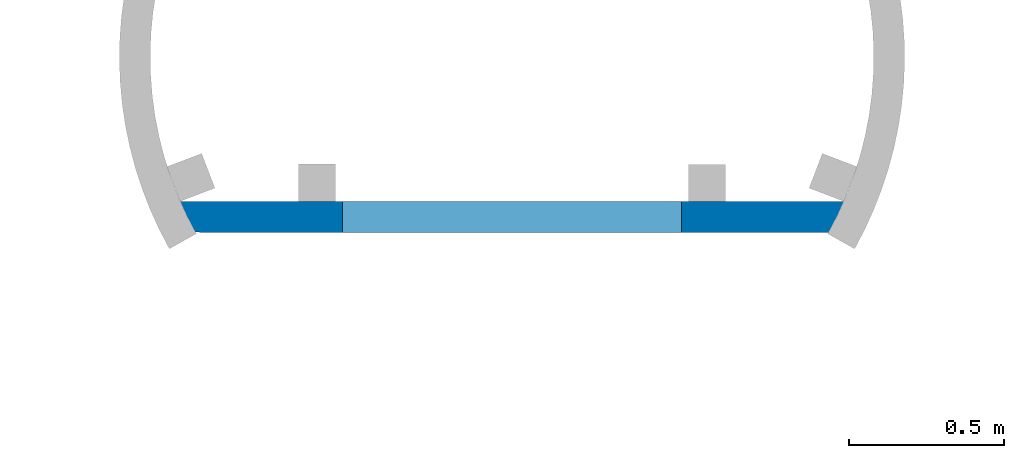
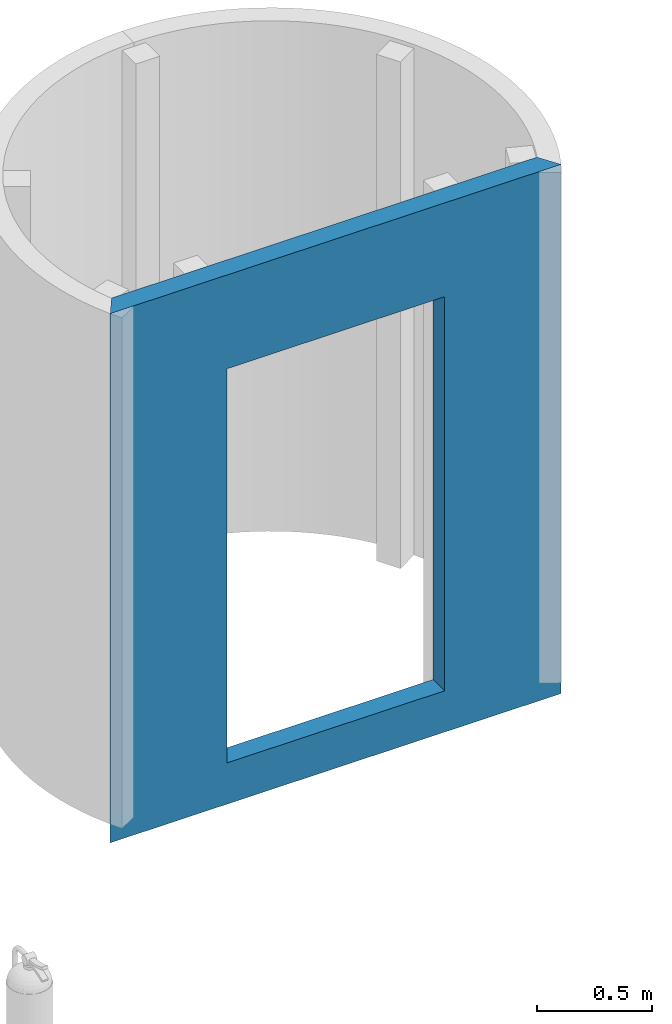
# One storey, part 2 of 4: 1 wall, 1 opening.
"""IFC4 building model written with IfcOpenShell, lengths in millimetres."""

from ifc_helpers import new_model, entity, si_unit, converted_unit, derived_unit, direction, frame, origin_with_axes, origin_2d_with_axis, place, context, subcontext, project, spatial, line, indexed_curve, rectangle, outline, extrude, material, layer, layer_set, layer_usage, type_object, element, save


model = new_model("IFC4")

# Units and contexts
model_context = context("Model", 3, precision=0.01, world=origin_with_axes(), true_north=direction((0.0, 1.0)))
body_context = subcontext(model_context, "Body", "Model", "MODEL_VIEW")
ifc_project = project(units=[si_unit("LENGTHUNIT", "METRE", prefix="MILLI"), si_unit("AREAUNIT", "SQUARE_METRE"), si_unit("VOLUMEUNIT", "CUBIC_METRE"), converted_unit("PLANEANGLEUNIT", "DEGREE", entity("IfcPlaneAngleMeasure", 0.0174532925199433), si_unit("PLANEANGLEUNIT", "RADIAN"), dimensions=[0, 0, 0, 0, 0, 0, 0]), converted_unit("TIMEUNIT", "Year", entity("IfcTimeMeasure", 31557600.0), si_unit("TIMEUNIT", "SECOND"), dimensions=[0, 0, 1, 0, 0, 0, 0]), si_unit("MASSUNIT", "GRAM", prefix="KILO"), si_unit("THERMODYNAMICTEMPERATUREUNIT", "DEGREE_CELSIUS"), si_unit("LUMINOUSINTENSITYUNIT", "LUMEN"), si_unit("ENERGYUNIT", "JOULE", prefix="MEGA"), derived_unit("THERMALCONDUCTANCEUNIT", [(si_unit("POWERUNIT", "WATT"), 1), (si_unit("LENGTHUNIT", "METRE"), -1), (si_unit("THERMODYNAMICTEMPERATUREUNIT", "KELVIN"), -1)]), derived_unit("SPECIFICHEATCAPACITYUNIT", [(si_unit("ENERGYUNIT", "JOULE"), 1), (si_unit("MASSUNIT", "GRAM", prefix="KILO"), -1), (si_unit("THERMODYNAMICTEMPERATUREUNIT", "KELVIN"), -1)]), derived_unit("MASSDENSITYUNIT", [(si_unit("MASSUNIT", "GRAM", prefix="KILO"), 1), (si_unit("VOLUMEUNIT", "CUBIC_METRE"), -1)])], contexts=[model_context])

# Site, building, storey
site_placement = place(None, origin_with_axes())
site = spatial("IfcSite", under=ifc_project, at=site_placement, Name="Exteriér", CompositionType="ELEMENT")
building_placement = place(site_placement, origin_with_axes())
building = spatial("IfcBuilding", under=site, at=building_placement, Name="Univerzitní lezecké centrum", CompositionType="ELEMENT")
storey_placement = place(building_placement, frame((0.0, 0.0, 9600.000000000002), z_axis=(0.0, 0.0, 1.0), x_axis=(1.0, 0.0, 0.0)))
storey = spatial("IfcBuildingStorey", under=building, at=storey_placement, Name="4.NP", CompositionType="ELEMENT", Elevation=9600.0)

# Wall, opening
ifc_material = material(Name="Sklo")
ifc_layer = layer(ifc_material, 100.0, ventilated="UNKNOWN", Name="Sklo")
ifc_layer_set = layer_set([ifc_layer], Name="Sklo 100")
ifc_layer_usage = layer_usage(ifc_layer_set, "AXIS2", "NEGATIVE", 100.0)
wall_type = type_object("IfcWallType", Name="Sklo 100", PredefinedType="NOTDEFINED")
wall_placement = place(storey_placement, frame((1313.204061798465, 3133.491162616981, -220.0000000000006), z_axis=(0.0, 0.0, 1.0), x_axis=(0.9999999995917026, -2.857612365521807e-05, 0.0)))
wall = element("IfcWall", 1, at=wall_placement, inside=storey, type_object=wall_type, material=ifc_layer_usage, Name="Z053", PredefinedType="NOTDEFINED", context=body_context, shape_type="SweptSolid", body=[
    extrude(outline(indexed_curve([(0.0, 0.0), (2273.262795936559, 0.0), (2209.589551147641, 99.99999999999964), (63.67324478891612, 100.0000000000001)], segments=[line(1, 2, 3, 4, 1)])), origin_with_axes(), (0.0, 0.0, 1.0), 2820.000000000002),
])
opening_placement = place(wall_placement, frame((1136.628541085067, 0.0, 220.0000000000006), z_axis=(0.0, 0.0, 1.0), x_axis=(1.0, 0.0, 0.0)))
element("IfcOpeningElement", 2, at=opening_placement, cuts=wall, context=body_context, shape_type="SweptSolid", body=[
    extrude(rectangle(XDim=1097.999999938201, YDim=2100.0, at=origin_2d_with_axis()), frame((0.0, -100.0000000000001, 1050.000000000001), z_axis=(0.0, 1.0, 0.0), x_axis=(-1.0, 0.0, 0.0)), (0.0, 0.0, 1.0), 300.0000000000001),
])

save(model, "model.ifc")
